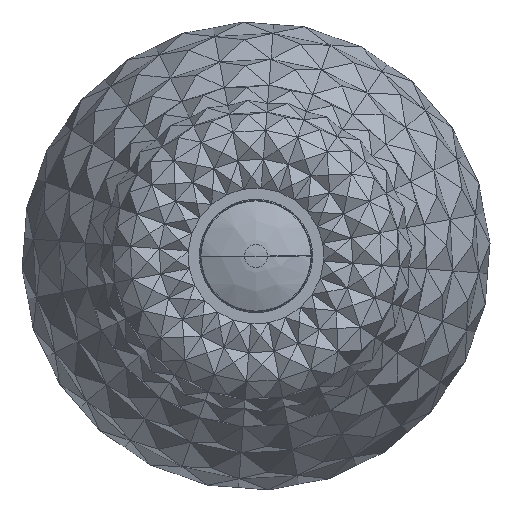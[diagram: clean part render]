
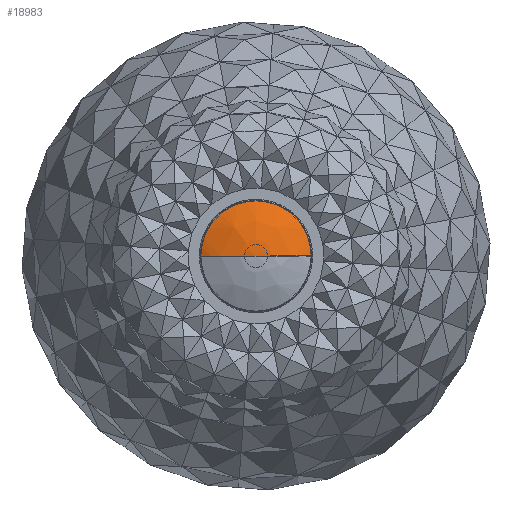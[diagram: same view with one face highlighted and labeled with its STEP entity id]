
A CAD part, front view. The second image highlights one B-rep face of the part: STEP entity #18983.
In plain terms, the highlighted free-form (B-spline) face has degree [3, 3] with [4, 4] control points.
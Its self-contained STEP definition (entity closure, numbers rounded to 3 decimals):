
#857 = CARTESIAN_POINT ( 'NONE',  ( 51.727, -191.39, 0. ) ) ;
#1912 =( BOUNDED_SURFACE ( )  B_SPLINE_SURFACE ( 3, 3, ( 
 ( #11747, #2351, #13404, #3980 ),
 ( #15023, #5574, #16612, #7158 ),
 ( #18195, #8731, #19785, #10358 ),
 ( #857, #11893, #2427, #13473 ) ),
 .UNSPECIFIED., .F., .F., .F. ) 
 B_SPLINE_SURFACE_WITH_KNOTS ( ( 4, 4 ),
 ( 4, 4 ),
 ( 0., 0.195 ),
 ( 0., 1. ),
 .UNSPECIFIED. ) 
 GEOMETRIC_REPRESENTATION_ITEM ( )  RATIONAL_B_SPLINE_SURFACE ( (
 ( 1., 0.333, 0.333, 1.),
 ( 0.87, 0.29, 0.29, 0.87),
 ( 0.766, 0.255, 0.255, 0.766),
 ( 0.687, 0.229, 0.229, 0.687) ) ) 
 REPRESENTATION_ITEM ( '' )  SURFACE ( )  );
#2304 = CARTESIAN_POINT ( 'NONE',  ( -24.99, -191.39, 0. ) ) ;
#2351 = CARTESIAN_POINT ( 'NONE',  ( 13.368, -200.66, 0. ) ) ;
#2427 = CARTESIAN_POINT ( 'NONE',  ( -24.99, -191.39, 76.717 ) ) ;
#2762 = CARTESIAN_POINT ( 'NONE',  ( 13.368, -191.39, 38.359 ) ) ;
#2825 = VERTEX_POINT ( 'NONE', #2762 ) ;
#3378 = CARTESIAN_POINT ( 'NONE',  ( 25.893, -200.66, 0. ) ) ;
#3870 = CARTESIAN_POINT ( 'NONE',  ( 13.368, -191.39, 0. ) ) ;
#3980 = CARTESIAN_POINT ( 'NONE',  ( 13.368, -200.66, 0. ) ) ;
#4876 =( BOUNDED_CURVE ( )  B_SPLINE_CURVE ( 3, ( #18964, #6319, #6404, #17444 ),
 .UNSPECIFIED., .F., .F. ) 
 B_SPLINE_CURVE_WITH_KNOTS ( ( 4, 4 ),
 ( 0., 0.195 ),
 .UNSPECIFIED. ) 
 CURVE ( )  GEOMETRIC_REPRESENTATION_ITEM ( )  RATIONAL_B_SPLINE_CURVE ( ( 1., 0.87, 0.766, 0.687 ) ) 
 REPRESENTATION_ITEM ( '' )  );
#5172 = DIRECTION ( 'NONE',  ( 0., 1., 0. ) ) ;
#5366 = ORIENTED_EDGE ( 'NONE', *, *, #8578, .T. ) ;
#5478 = DIRECTION ( 'NONE',  ( 0., 0., -1. ) ) ;
#5574 = CARTESIAN_POINT ( 'NONE',  ( 25.893, -200.66, 25.048 ) ) ;
#6319 = CARTESIAN_POINT ( 'NONE',  ( 0.844, -200.66, 0. ) ) ;
#6404 = CARTESIAN_POINT ( 'NONE',  ( -12.328, -197.89, 0. ) ) ;
#6508 =( BOUNDED_CURVE ( )  B_SPLINE_CURVE ( 3, ( #14420, #3378, #12821, #16034 ),
 .UNSPECIFIED., .F., .T. ) 
 B_SPLINE_CURVE_WITH_KNOTS ( ( 4, 4 ),
 ( 0., 0.195 ),
 .UNSPECIFIED. ) 
 CURVE ( )  GEOMETRIC_REPRESENTATION_ITEM ( )  RATIONAL_B_SPLINE_CURVE ( ( 1., 0.87, 0.766, 0.687 ) ) 
 REPRESENTATION_ITEM ( '' )  );
#7158 = CARTESIAN_POINT ( 'NONE',  ( 0.844, -200.66, 0. ) ) ;
#7164 = CARTESIAN_POINT ( 'NONE',  ( 13.368, -200.66, 0. ) ) ;
#8255 = FACE_OUTER_BOUND ( 'NONE', #14230, .T. ) ;
#8578 = EDGE_CURVE ( 'NONE', #14293, #14608, #6508, .T. ) ;
#8731 = CARTESIAN_POINT ( 'NONE',  ( 39.065, -197.89, 51.392 ) ) ;
#10358 = CARTESIAN_POINT ( 'NONE',  ( -12.328, -197.89, 0. ) ) ;
#11240 = EDGE_CURVE ( 'NONE', #2825, #14608, #19194, .T. ) ;
#11747 = CARTESIAN_POINT ( 'NONE',  ( 13.368, -200.66, 0. ) ) ;
#11893 = CARTESIAN_POINT ( 'NONE',  ( 51.727, -191.39, 76.717 ) ) ;
#12821 = CARTESIAN_POINT ( 'NONE',  ( 39.065, -197.89, 0. ) ) ;
#13049 = ORIENTED_EDGE ( 'NONE', *, *, #11240, .F. ) ;
#13129 = CARTESIAN_POINT ( 'NONE',  ( 51.727, -191.39, 0. ) ) ;
#13404 = CARTESIAN_POINT ( 'NONE',  ( 13.368, -200.66, 0. ) ) ;
#13473 = CARTESIAN_POINT ( 'NONE',  ( -24.99, -191.39, 0. ) ) ;
#13501 = ORIENTED_EDGE ( 'NONE', *, *, #19900, .F. ) ;
#13559 = AXIS2_PLACEMENT_3D ( 'NONE', #3870, #14914, #5478 ) ;
#14230 = EDGE_LOOP ( 'NONE', ( #16249, #5366, #13049, #13501 ) ) ;
#14293 = VERTEX_POINT ( 'NONE', #7164 ) ;
#14420 = CARTESIAN_POINT ( 'NONE',  ( 13.368, -200.66, 0. ) ) ;
#14608 = VERTEX_POINT ( 'NONE', #13129 ) ;
#14614 = CARTESIAN_POINT ( 'NONE',  ( 13.368, -191.39, 0. ) ) ;
#14914 = DIRECTION ( 'NONE',  ( 0., 1., 0. ) ) ;
#15023 = CARTESIAN_POINT ( 'NONE',  ( 25.893, -200.66, 0. ) ) ;
#16034 = CARTESIAN_POINT ( 'NONE',  ( 51.727, -191.39, 0. ) ) ;
#16214 = DIRECTION ( 'NONE',  ( 0., 0., -1. ) ) ;
#16249 = ORIENTED_EDGE ( 'NONE', *, *, #18787, .F. ) ;
#16612 = CARTESIAN_POINT ( 'NONE',  ( 0.844, -200.66, 25.048 ) ) ;
#16618 = CIRCLE ( 'NONE', #13559, 38.359 ) ;
#16950 = AXIS2_PLACEMENT_3D ( 'NONE', #14614, #5172, #16214 ) ;
#17314 = VERTEX_POINT ( 'NONE', #2304 ) ;
#17444 = CARTESIAN_POINT ( 'NONE',  ( -24.99, -191.39, 0. ) ) ;
#18195 = CARTESIAN_POINT ( 'NONE',  ( 39.065, -197.89, 0. ) ) ;
#18787 = EDGE_CURVE ( 'NONE', #14293, #17314, #4876, .T. ) ;
#18964 = CARTESIAN_POINT ( 'NONE',  ( 13.368, -200.66, 0. ) ) ;
#18983 = ADVANCED_FACE ( 'NONE', ( #8255 ), #1912, .T. ) ;
#19194 = CIRCLE ( 'NONE', #16950, 38.359 ) ;
#19785 = CARTESIAN_POINT ( 'NONE',  ( -12.328, -197.89, 51.392 ) ) ;
#19900 = EDGE_CURVE ( 'NONE', #17314, #2825, #16618, .T. ) ;
